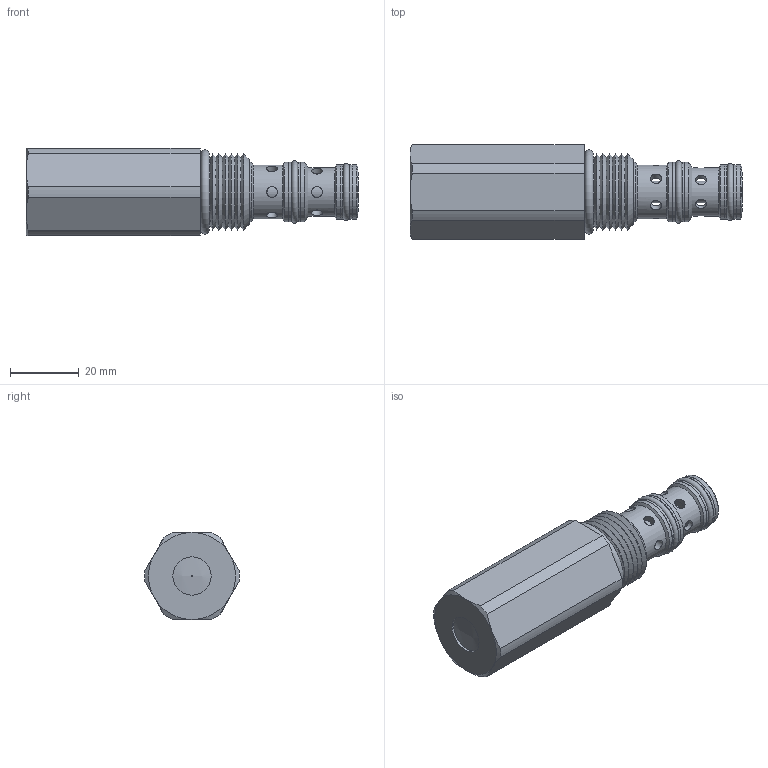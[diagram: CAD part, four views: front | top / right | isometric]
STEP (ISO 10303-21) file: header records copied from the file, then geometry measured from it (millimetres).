
FILE_DESCRIPTION((''),'2;1');
FILE_NAME('Q:\Delta CADD Insertion Codes\3D Solid models\Mechanical Valves\DWG\DFPCT0T.stp','2012-12-06T13:17:07',('Dan'),(''),'Autodesk Inventor 2012','Autodesk Inventor 2012','');
FILE_SCHEMA(('AUTOMOTIVE_DESIGN { 1 0 10303 214 1 1 1 1 }'));
Length unit declared in the file: inch
Products named in the file (9): Assembly9; Part118; Part120; Part122; Part124; Part126; Part128; Part130; Part132
Assembly tree (8 placements, depth 2):
  Assembly9
    Part118
    Part120
    Part122
    Part124
    Part126
    Part128
    Part130
    Part132
Bounding box: 96.84 x 27.67 x 25.4 mm (x, y, z)
Volume: 38017.1 mm3; surface area: 12371.8 mm2
Topology: 8 solids, 9 shells, 109 faces, 224 edges, 140 vertices
Faces by surface type: cylinder 47, plane 33, cone 24, torus 3, sphere 2
Full cylindrical faces by diameter (mm): 3.175 x12, 6.363 x1, 10.081 x3, 11.097 x5, 11.11 x1, 11.151 x1, 12.992 x1, 13.043 x2, 14.224 x1, 14.592 x1, 14.643 x2, 15.748 x1, 15.773 x2, 15.786 x2, 17.323 x1, 17.374 x2, 17.386 x2, 19.622 x1
Entity records: 3552 total; most frequent: CARTESIAN_POINT 1223, DIRECTION 464, ORIENTED_EDGE 302, AXIS2_PLACEMENT_3D 223, EDGE_LOOP 217, EDGE_CURVE 151, VERTEX_POINT 130, FACE_OUTER_BOUND 109
